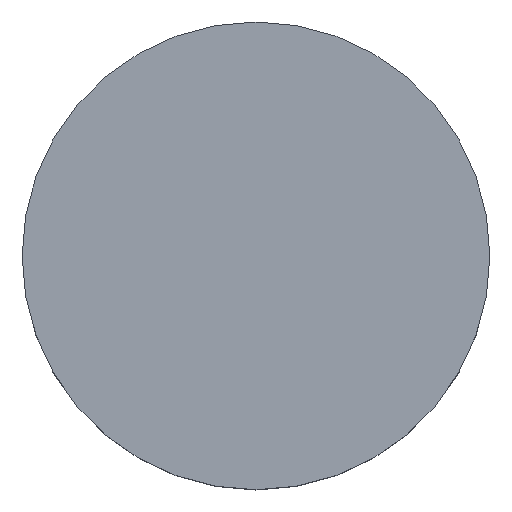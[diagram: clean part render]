
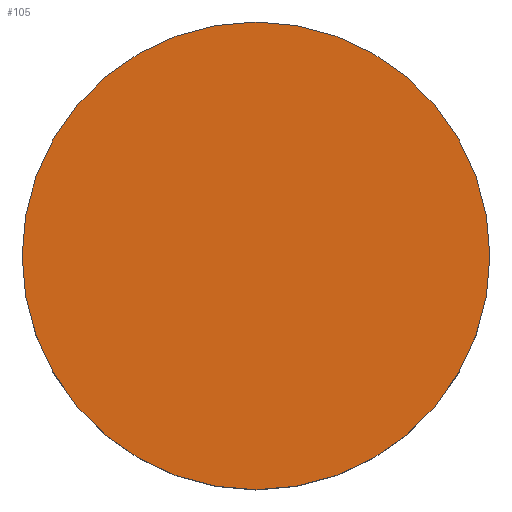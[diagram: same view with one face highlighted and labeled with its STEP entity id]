
A CAD part, top view. The second image highlights one B-rep face of the part: STEP entity #105.
In plain terms, the highlighted planar face has unit normal (0, 0, 1).
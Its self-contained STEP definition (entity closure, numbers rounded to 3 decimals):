
#21 = EDGE_CURVE('',#22,#22,#24,.T.);
#22 = VERTEX_POINT('',#23);
#23 = CARTESIAN_POINT('',(9.45,-38.,9.58));
#24 = SURFACE_CURVE('',#25,(#30,#42),.PCURVE_S1.);
#25 = CIRCLE('',#26,1.75);
#26 = AXIS2_PLACEMENT_3D('',#27,#28,#29);
#27 = CARTESIAN_POINT('',(7.7,-38.,9.58));
#28 = DIRECTION('',(0.,0.,1.));
#29 = DIRECTION('',(1.,0.,-0.));
#30 = PCURVE('',#31,#36);
#31 = CYLINDRICAL_SURFACE('',#32,1.75);
#32 = AXIS2_PLACEMENT_3D('',#33,#34,#35);
#33 = CARTESIAN_POINT('',(7.7,-38.,8.58));
#34 = DIRECTION('',(0.,0.,1.));
#35 = DIRECTION('',(1.,0.,-0.));
#36 = DEFINITIONAL_REPRESENTATION('',(#37),#41);
#37 = LINE('',#38,#39);
#38 = CARTESIAN_POINT('',(0.,1.));
#39 = VECTOR('',#40,1.);
#40 = DIRECTION('',(1.,0.));
#41 = ( GEOMETRIC_REPRESENTATION_CONTEXT(2) 
PARAMETRIC_REPRESENTATION_CONTEXT() REPRESENTATION_CONTEXT('2D SPACE',''
  ) );
#42 = PCURVE('',#43,#48);
#43 = PLANE('',#44);
#44 = AXIS2_PLACEMENT_3D('',#45,#46,#47);
#45 = CARTESIAN_POINT('',(7.7,-38.,9.58));
#46 = DIRECTION('',(0.,0.,1.));
#47 = DIRECTION('',(1.,0.,-0.));
#48 = DEFINITIONAL_REPRESENTATION('',(#49),#53);
#49 = CIRCLE('',#50,1.75);
#50 = AXIS2_PLACEMENT_2D('',#51,#52);
#51 = CARTESIAN_POINT('',(0.,0.));
#52 = DIRECTION('',(1.,0.));
#53 = ( GEOMETRIC_REPRESENTATION_CONTEXT(2) 
PARAMETRIC_REPRESENTATION_CONTEXT() REPRESENTATION_CONTEXT('2D SPACE',''
  ) );
#105 = ADVANCED_FACE('',(#106),#43,.T.);
#106 = FACE_BOUND('',#107,.T.);
#107 = EDGE_LOOP('',(#108));
#108 = ORIENTED_EDGE('',*,*,#21,.T.);
